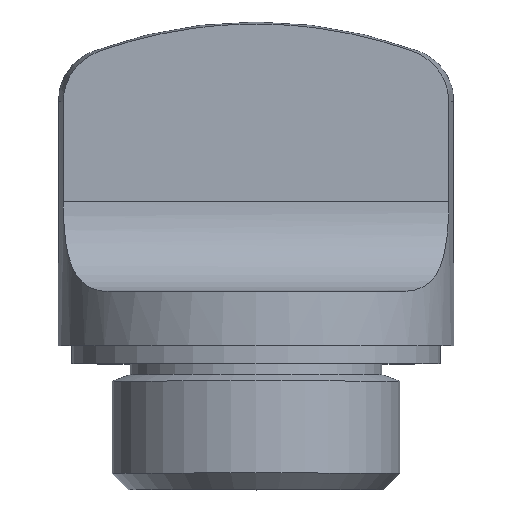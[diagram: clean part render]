
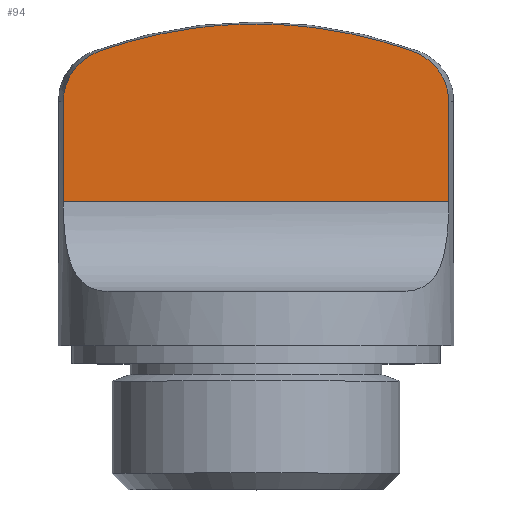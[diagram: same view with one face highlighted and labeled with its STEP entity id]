
A CAD part, top view. The second image highlights one B-rep face of the part: STEP entity #94.
In plain terms, the highlighted planar face has unit normal (0, 0, 1).
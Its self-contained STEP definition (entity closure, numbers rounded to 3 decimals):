
#94 = ADVANCED_FACE( '', ( #159 ), #160, .T. );
#159 = FACE_OUTER_BOUND( '', #246, .T. );
#160 = PLANE( '', #247 );
#246 = EDGE_LOOP( '', ( #404, #405, #406, #407, #408, #409 ) );
#247 = AXIS2_PLACEMENT_3D( '', #410, #411, #412 );
#404 = ORIENTED_EDGE( '', *, *, #487, .T. );
#405 = ORIENTED_EDGE( '', *, *, #497, .F. );
#406 = ORIENTED_EDGE( '', *, *, #493, .T. );
#407 = ORIENTED_EDGE( '', *, *, #505, .F. );
#408 = ORIENTED_EDGE( '', *, *, #501, .F. );
#409 = ORIENTED_EDGE( '', *, *, #507, .F. );
#410 = CARTESIAN_POINT( '', ( 22., 16., 2.5 ) );
#411 = DIRECTION( '', ( 0., 0., 1. ) );
#412 = DIRECTION( '', ( 1., 0., 0. ) );
#487 = EDGE_CURVE( '', #552, #553, #554, .T. );
#493 = EDGE_CURVE( '', #563, #561, #564, .F. );
#497 = EDGE_CURVE( '', #563, #553, #570, .T. );
#501 = EDGE_CURVE( '', #572, #575, #576, .F. );
#505 = EDGE_CURVE( '', #575, #561, #581, .T. );
#507 = EDGE_CURVE( '', #552, #572, #583, .T. );
#552 = VERTEX_POINT( '', #752 );
#553 = VERTEX_POINT( '', #753 );
#554 = LINE( '', #754, #755 );
#561 = VERTEX_POINT( '', #764 );
#563 = VERTEX_POINT( '', #766 );
#564 = LINE( '', #767, #768 );
#570 = LINE( '', #806, #807 );
#572 = VERTEX_POINT( '', #810 );
#575 = VERTEX_POINT( '', #813 );
#576 = CIRCLE( '', #814, 25.88 );
#581 = B_SPLINE_CURVE_WITH_KNOTS( '', 3, ( #832, #833, #834, #835, #836, #837, #838, #839, #840, #841, #842, #843 ), .UNSPECIFIED., .F., .F., ( 4, 2, 2, 2, 2, 4 ), ( 0.005, 0.005, 0.006, 0.007, 0.008, 0.008 ), .UNSPECIFIED. );
#583 = B_SPLINE_CURVE_WITH_KNOTS( '', 3, ( #854, #855, #856, #857, #858, #859, #860, #861, #862, #863, #864, #865 ), .UNSPECIFIED., .F., .F., ( 4, 2, 2, 2, 2, 4 ), ( 0.017, 0.018, 0.019, 0.02, 0.021, 0.021 ), .UNSPECIFIED. );
#752 = CARTESIAN_POINT( '', ( -10.712, 21.564, 2.5 ) );
#753 = CARTESIAN_POINT( '', ( -10.712, 16., 2.5 ) );
#754 = CARTESIAN_POINT( '', ( -10.712, 0., 2.5 ) );
#755 = VECTOR( '', #920, 1000. );
#764 = CARTESIAN_POINT( '', ( 10.712, 21.564, 2.5 ) );
#766 = CARTESIAN_POINT( '', ( 10.712, 16., 2.5 ) );
#767 = CARTESIAN_POINT( '', ( 10.712, 0., 2.5 ) );
#768 = VECTOR( '', #932, 1000. );
#806 = CARTESIAN_POINT( '', ( 22., 16., 2.5 ) );
#807 = VECTOR( '', #936, 1000. );
#810 = CARTESIAN_POINT( '', ( -8.691, 24.377, 2.5 ) );
#813 = CARTESIAN_POINT( '', ( 8.691, 24.377, 2.5 ) );
#814 = AXIS2_PLACEMENT_3D( '', #941, #942, #943 );
#832 = CARTESIAN_POINT( '', ( 8.691, 24.377, 2.5 ) );
#833 = CARTESIAN_POINT( '', ( 8.835, 24.325, 2.5 ) );
#834 = CARTESIAN_POINT( '', ( 8.975, 24.263, 2.5 ) );
#835 = CARTESIAN_POINT( '', ( 9.247, 24.119, 2.5 ) );
#836 = CARTESIAN_POINT( '', ( 9.379, 24.036, 2.5 ) );
#837 = CARTESIAN_POINT( '', ( 9.75, 23.761, 2.5 ) );
#838 = CARTESIAN_POINT( '', ( 9.968, 23.542, 2.5 ) );
#839 = CARTESIAN_POINT( '', ( 10.332, 23.04, 2.5 ) );
#840 = CARTESIAN_POINT( '', ( 10.471, 22.767, 2.5 ) );
#841 = CARTESIAN_POINT( '', ( 10.664, 22.177, 2.5 ) );
#842 = CARTESIAN_POINT( '', ( 10.712, 21.873, 2.5 ) );
#843 = CARTESIAN_POINT( '', ( 10.712, 21.564, 2.5 ) );
#854 = CARTESIAN_POINT( '', ( -10.712, 21.564, 2.5 ) );
#855 = CARTESIAN_POINT( '', ( -10.712, 21.87, 2.5 ) );
#856 = CARTESIAN_POINT( '', ( -10.663, 22.181, 2.5 ) );
#857 = CARTESIAN_POINT( '', ( -10.473, 22.763, 2.5 ) );
#858 = CARTESIAN_POINT( '', ( -10.33, 23.043, 2.5 ) );
#859 = CARTESIAN_POINT( '', ( -9.966, 23.544, 2.5 ) );
#860 = CARTESIAN_POINT( '', ( -9.749, 23.762, 2.5 ) );
#861 = CARTESIAN_POINT( '', ( -9.378, 24.036, 2.5 ) );
#862 = CARTESIAN_POINT( '', ( -9.246, 24.12, 2.5 ) );
#863 = CARTESIAN_POINT( '', ( -8.976, 24.263, 2.5 ) );
#864 = CARTESIAN_POINT( '', ( -8.836, 24.325, 2.5 ) );
#865 = CARTESIAN_POINT( '', ( -8.691, 24.377, 2.5 ) );
#920 = DIRECTION( '', ( 0., -1., 0. ) );
#932 = DIRECTION( '', ( 0., -1., 0. ) );
#936 = DIRECTION( '', ( -1., 0., 0. ) );
#941 = CARTESIAN_POINT( '', ( 0., 0., 2.5 ) );
#942 = DIRECTION( '', ( 0., 0., 1. ) );
#943 = DIRECTION( '', ( 1., 0., 0. ) );
